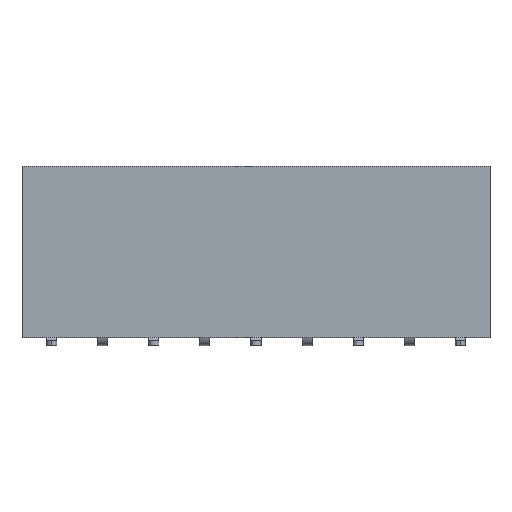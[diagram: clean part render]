
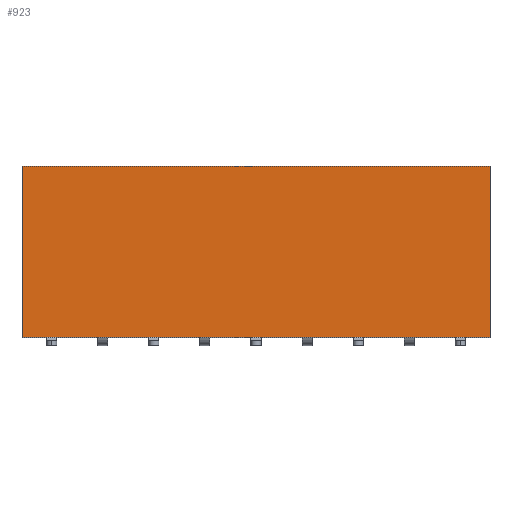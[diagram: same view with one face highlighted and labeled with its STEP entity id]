
A CAD part, top view. The second image highlights one B-rep face of the part: STEP entity #923.
In plain terms, the highlighted planar face has unit normal (0, 0, 1).
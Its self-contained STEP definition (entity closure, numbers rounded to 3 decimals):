
#101 = VERTEX_POINT ( 'NONE', #827 ) ;
#145 = DIRECTION ( 'NONE',  ( 1., 0., 0. ) ) ;
#174 = FACE_OUTER_BOUND ( 'NONE', #3269, .T. ) ;
#206 = LINE ( 'NONE', #2146, #4218 ) ;
#256 = CARTESIAN_POINT ( 'NONE',  ( 1.17, 8., 8.5 ) ) ;
#381 = EDGE_CURVE ( 'NONE', #101, #1890, #442, .T. ) ;
#442 = LINE ( 'NONE', #3496, #1039 ) ;
#540 = CARTESIAN_POINT ( 'NONE',  ( -7.69, 8., 8.5 ) ) ;
#827 = CARTESIAN_POINT ( 'NONE',  ( 1.17, -0.5, 8.5 ) ) ;
#923 = ADVANCED_FACE ( 'NONE', ( #174 ), #4878, .T. ) ;
#1039 = VECTOR ( 'NONE', #3548, 1000. ) ;
#1154 = VERTEX_POINT ( 'NONE', #1787 ) ;
#1348 = ORIENTED_EDGE ( 'NONE', *, *, #3093, .F. ) ;
#1469 = LINE ( 'NONE', #4214, #2222 ) ;
#1787 = CARTESIAN_POINT ( 'NONE',  ( 24.43, 8., 8.5 ) ) ;
#1879 = VERTEX_POINT ( 'NONE', #256 ) ;
#1890 = VERTEX_POINT ( 'NONE', #4253 ) ;
#2146 = CARTESIAN_POINT ( 'NONE',  ( -7.69, 8., 8.5 ) ) ;
#2222 = VECTOR ( 'NONE', #5091, 1000. ) ;
#2634 = VECTOR ( 'NONE', #4737, 1000. ) ;
#2769 = EDGE_CURVE ( 'NONE', #1154, #1890, #1469, .T. ) ;
#3093 = EDGE_CURVE ( 'NONE', #1879, #1154, #206, .T. ) ;
#3105 = AXIS2_PLACEMENT_3D ( 'NONE', #540, #4177, #145 ) ;
#3214 = EDGE_CURVE ( 'NONE', #1879, #101, #5130, .T. ) ;
#3269 = EDGE_LOOP ( 'NONE', ( #4358, #3321, #1348, #3952 ) ) ;
#3321 = ORIENTED_EDGE ( 'NONE', *, *, #2769, .F. ) ;
#3496 = CARTESIAN_POINT ( 'NONE',  ( -7.69, -0.5, 8.5 ) ) ;
#3548 = DIRECTION ( 'NONE',  ( 1., 0., 0. ) ) ;
#3952 = ORIENTED_EDGE ( 'NONE', *, *, #3214, .T. ) ;
#4177 = DIRECTION ( 'NONE',  ( 0., 0., 1. ) ) ;
#4184 = DIRECTION ( 'NONE',  ( 1., 0., 0. ) ) ;
#4214 = CARTESIAN_POINT ( 'NONE',  ( 24.43, 8., 8.5 ) ) ;
#4218 = VECTOR ( 'NONE', #4184, 1000. ) ;
#4253 = CARTESIAN_POINT ( 'NONE',  ( 24.43, -0.5, 8.5 ) ) ;
#4358 = ORIENTED_EDGE ( 'NONE', *, *, #381, .T. ) ;
#4570 = CARTESIAN_POINT ( 'NONE',  ( 1.17, 8., 8.5 ) ) ;
#4737 = DIRECTION ( 'NONE',  ( 0., -1., 0. ) ) ;
#4878 = PLANE ( 'NONE',  #3105 ) ;
#5091 = DIRECTION ( 'NONE',  ( 0., -1., 0. ) ) ;
#5130 = LINE ( 'NONE', #4570, #2634 ) ;
